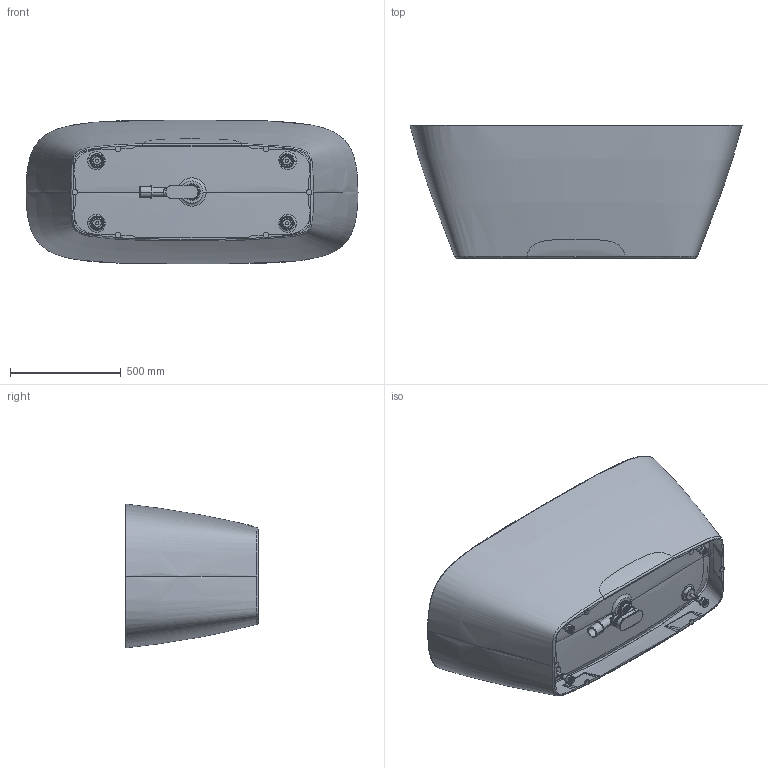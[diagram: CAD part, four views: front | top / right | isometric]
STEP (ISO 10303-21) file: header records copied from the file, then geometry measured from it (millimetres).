
FILE_DESCRIPTION (( 'STEP AP214' ), '1' );
FILE_NAME ('Jauna_vanna_PAA_2025.STEP', '2025-09-02T09:42:51', ( '' ), ( '' ), 'SwSTEP 2.0', 'SolidWorks 2018', '' );
FILE_SCHEMA (( 'AUTOMOTIVE_DESIGN' ));
Length unit declared in the file: millimetre
Products named in the file (10): DYI freestanding v3.1; Alca-A53-DN50; Jauna_vanna_PAA_2025; Copy of KK60-VS^VA-Detalu-komplekts-DKVAJ_Jauna_vanna_PAA_2025; PamatneKajai_pb; DIN976-1_vitnstienis_M12_L=90; KAJ-DP-60; VA-Detalu-komplekts-DKVAJ^Jauna_vanna_PAA_2025; SIF-SILFRA-D42651_Jauna; KAJ-VA-Voilokaslapetajs-837405
Assembly tree (17 placements, depth 4):
  Jauna_vanna_PAA_2025
    DYI freestanding v3.1
    VA-Detalu-komplekts-DKVAJ^Jauna_vanna_PAA_2025
      Copy of KK60-VS^VA-Detalu-komplekts-DKVAJ_Jauna_vanna_PAA_2025  x4
        KAJ-DP-60
        PamatneKajai_pb
        DIN976-1_vitnstienis_M12_L=90
      Alca-A53-DN50
      SIF-SILFRA-D42651_Jauna
      KAJ-VA-Voilokaslapetajs-837405  x6
Bounding box: 1499.44 x 603.5 x 649.67 mm (x, y, z)
Volume: 37489788.1 mm3; surface area: 5425749.7 mm2
Topology: 31 solids, 31 shells, 1202 faces, 2984 edges, 1879 vertices
Faces by surface type: cylinder 579, plane 229, bspline 184, cone 156, torus 50, sphere 4
Entity records: 106929 total; most frequent: CARTESIAN_POINT 89803, ORIENTED_EDGE 4026, DIRECTION 2851, EDGE_CURVE 2013, VERTEX_POINT 1271, AXIS2_PLACEMENT_3D 1133, EDGE_LOOP 846, FACE_OUTER_BOUND 795
